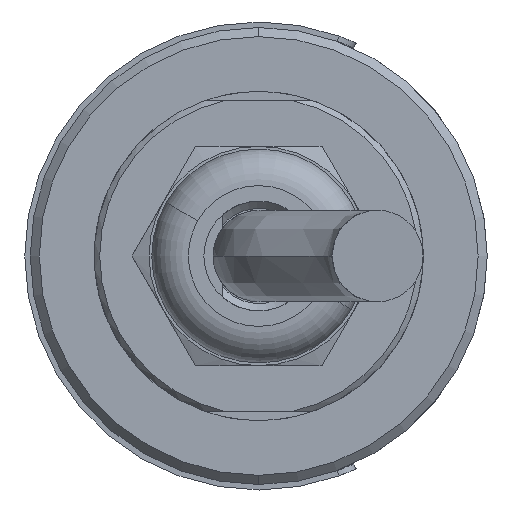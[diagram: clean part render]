
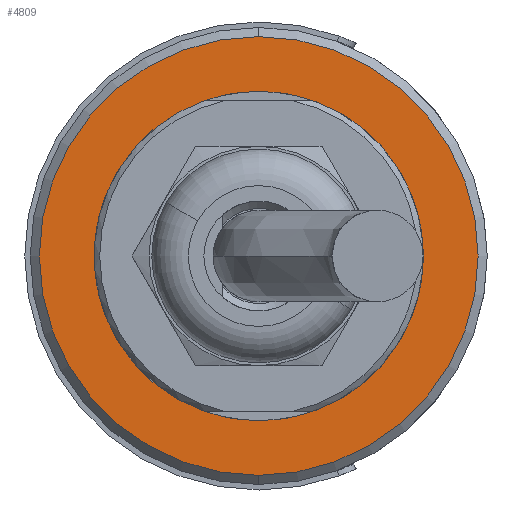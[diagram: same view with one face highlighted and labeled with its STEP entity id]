
A CAD part, left-side view. The second image highlights one B-rep face of the part: STEP entity #4809.
In plain terms, the highlighted planar face has unit normal (-1, 0, 0).
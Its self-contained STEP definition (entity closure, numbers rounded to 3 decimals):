
#157 = CIRCLE ( 'NONE', #4684, 12. ) ;
#289 = EDGE_CURVE ( 'NONE', #2172, #4785, #5119, .T. ) ;
#445 = DIRECTION ( 'NONE',  ( 0., 0., 1. ) ) ;
#563 = CARTESIAN_POINT ( 'NONE',  ( -31.9, 0., 0. ) ) ;
#712 = DIRECTION ( 'NONE',  ( 0., 0., -1. ) ) ;
#1141 = CARTESIAN_POINT ( 'NONE',  ( -31.9, 0., 0. ) ) ;
#1197 = DIRECTION ( 'NONE',  ( 1., 0., 0. ) ) ;
#1237 = DIRECTION ( 'NONE',  ( 0., 0., -1. ) ) ;
#1283 = AXIS2_PLACEMENT_3D ( 'NONE', #4502, #1950, #1568 ) ;
#1356 = CARTESIAN_POINT ( 'NONE',  ( -31.9, 0., 9. ) ) ;
#1568 = DIRECTION ( 'NONE',  ( 0., 0., -1. ) ) ;
#1720 = CARTESIAN_POINT ( 'NONE',  ( -31.9, 0., 0. ) ) ;
#1840 = CARTESIAN_POINT ( 'NONE',  ( -31.9, 0., -9. ) ) ;
#1943 = VERTEX_POINT ( 'NONE', #4527 ) ;
#1950 = DIRECTION ( 'NONE',  ( -1., 0., 0. ) ) ;
#2172 = VERTEX_POINT ( 'NONE', #1356 ) ;
#2416 = CARTESIAN_POINT ( 'NONE',  ( -31.9, 0., 0. ) ) ;
#2629 = VERTEX_POINT ( 'NONE', #3344 ) ;
#2788 = DIRECTION ( 'NONE',  ( -1., 0., 0. ) ) ;
#2924 = DIRECTION ( 'NONE',  ( -1., 0., 0. ) ) ;
#2935 = AXIS2_PLACEMENT_3D ( 'NONE', #1141, #2788, #712 ) ;
#3099 = ORIENTED_EDGE ( 'NONE', *, *, #289, .T. ) ;
#3135 = ORIENTED_EDGE ( 'NONE', *, *, #4776, .T. ) ;
#3248 = FACE_OUTER_BOUND ( 'NONE', #4252, .T. ) ;
#3344 = CARTESIAN_POINT ( 'NONE',  ( -31.9, 0., 12. ) ) ;
#3474 = AXIS2_PLACEMENT_3D ( 'NONE', #1720, #1197, #445 ) ;
#3519 = DIRECTION ( 'NONE',  ( 1., 0., 0. ) ) ;
#3648 = EDGE_CURVE ( 'NONE', #2629, #1943, #5110, .T. ) ;
#3682 = EDGE_CURVE ( 'NONE', #1943, #2629, #157, .T. ) ;
#3700 = PLANE ( 'NONE',  #1283 ) ;
#3760 = EDGE_LOOP ( 'NONE', ( #3099, #3135 ) ) ;
#4252 = EDGE_LOOP ( 'NONE', ( #5006, #5395 ) ) ;
#4331 = CIRCLE ( 'NONE', #4508, 9. ) ;
#4502 = CARTESIAN_POINT ( 'NONE',  ( -31.9, 0., 9. ) ) ;
#4508 = AXIS2_PLACEMENT_3D ( 'NONE', #563, #3519, #4743 ) ;
#4527 = CARTESIAN_POINT ( 'NONE',  ( -31.9, 0., -12. ) ) ;
#4684 = AXIS2_PLACEMENT_3D ( 'NONE', #2416, #2924, #1237 ) ;
#4743 = DIRECTION ( 'NONE',  ( 0., 0., 1. ) ) ;
#4776 = EDGE_CURVE ( 'NONE', #4785, #2172, #4331, .T. ) ;
#4785 = VERTEX_POINT ( 'NONE', #1840 ) ;
#4809 = ADVANCED_FACE ( 'NONE', ( #3248, #4899 ), #3700, .T. ) ;
#4899 = FACE_BOUND ( 'NONE', #3760, .T. ) ;
#5006 = ORIENTED_EDGE ( 'NONE', *, *, #3648, .T. ) ;
#5110 = CIRCLE ( 'NONE', #2935, 12. ) ;
#5119 = CIRCLE ( 'NONE', #3474, 9. ) ;
#5395 = ORIENTED_EDGE ( 'NONE', *, *, #3682, .T. ) ;
